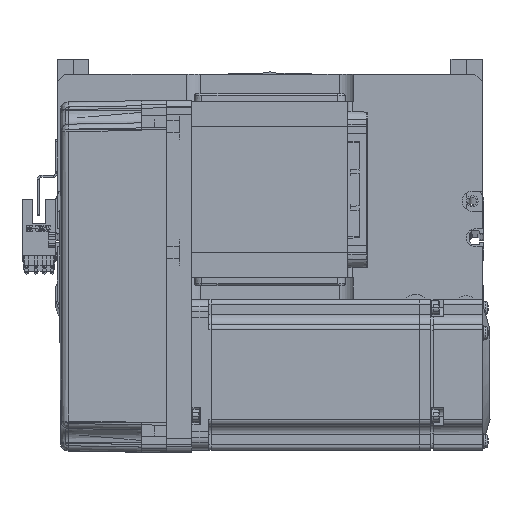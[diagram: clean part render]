
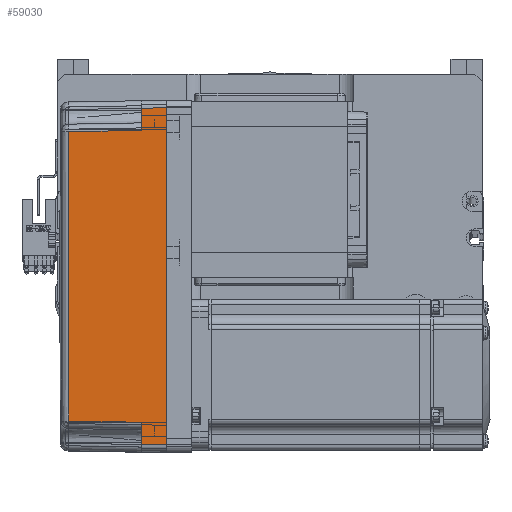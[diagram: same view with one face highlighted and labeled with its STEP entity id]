
A CAD part, top view. The second image highlights one B-rep face of the part: STEP entity #59030.
In plain terms, the highlighted planar face has unit normal (-0.018, 0, 1) as drawn and (0, -1, 0.017) by its records, which use the part's own axes.
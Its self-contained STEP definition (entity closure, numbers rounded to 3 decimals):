
#227 = VECTOR ( 'NONE', #56508, 1000. ) ;
#1279 = EDGE_LOOP ( 'NONE', ( #15662, #2074, #48173, #59424, #32034, #29405, #28759, #54098 ) ) ;
#2074 = ORIENTED_EDGE ( 'NONE', *, *, #31962, .T. ) ;
#2756 = DIRECTION ( 'NONE',  ( -1., 0., 0. ) ) ;
#2935 = EDGE_CURVE ( 'NONE', #60545, #5340, #16481, .T. ) ;
#3031 = VECTOR ( 'NONE', #2756, 1000. ) ;
#3061 = DIRECTION ( 'NONE',  ( 0.017, 0.017, 1. ) ) ;
#3585 = CARTESIAN_POINT ( 'NONE',  ( -57.495, -35.32, 38.985 ) ) ;
#3629 = CARTESIAN_POINT ( 'NONE',  ( 70., -35.825, 10. ) ) ;
#3814 = VERTEX_POINT ( 'NONE', #16048 ) ;
#5340 = VERTEX_POINT ( 'NONE', #31864 ) ;
#7530 = CARTESIAN_POINT ( 'NONE',  ( -66.959, -35.958, 2.39 ) ) ;
#7873 = CARTESIAN_POINT ( 'NONE',  ( -57.495, -35.32, 38.985 ) ) ;
#10322 = EDGE_CURVE ( 'NONE', #22923, #5340, #39278, .T. ) ;
#12197 = DIRECTION ( 'NONE',  ( -0.017, -0.017, -1. ) ) ;
#13967 = VECTOR ( 'NONE', #50641, 1000. ) ;
#15150 = VERTEX_POINT ( 'NONE', #54378 ) ;
#15399 = VERTEX_POINT ( 'NONE', #53314 ) ;
#15662 = ORIENTED_EDGE ( 'NONE', *, *, #23014, .T. ) ;
#15941 = CARTESIAN_POINT ( 'NONE',  ( 70., -35.825, 10. ) ) ;
#16048 = CARTESIAN_POINT ( 'NONE',  ( 66.826, -35.825, 10. ) ) ;
#16244 = DIRECTION ( 'NONE',  ( 0., -1., 0.017 ) ) ;
#16414 = CARTESIAN_POINT ( 'NONE',  ( 58., -35.825, 10. ) ) ;
#16481 = LINE ( 'NONE', #3629, #3031 ) ;
#18599 = EDGE_CURVE ( 'NONE', #15150, #22923, #65297, .T. ) ;
#22923 = VERTEX_POINT ( 'NONE', #61893 ) ;
#23014 = EDGE_CURVE ( 'NONE', #15150, #3814, #64514, .T. ) ;
#24849 = CARTESIAN_POINT ( 'NONE',  ( 70., -36., 0. ) ) ;
#24854 = LINE ( 'NONE', #47087, #52504 ) ;
#26378 = DIRECTION ( 'NONE',  ( 0., -0.017, -1. ) ) ;
#27015 = CARTESIAN_POINT ( 'NONE',  ( -19.165, -35.316, 39.181 ) ) ;
#28363 = EDGE_CURVE ( 'NONE', #15399, #51563, #44447, .T. ) ;
#28759 = ORIENTED_EDGE ( 'NONE', *, *, #10322, .F. ) ;
#29405 = ORIENTED_EDGE ( 'NONE', *, *, #2935, .T. ) ;
#29731 = CARTESIAN_POINT ( 'NONE',  ( 0., -36., 0. ) ) ;
#30809 = EDGE_CURVE ( 'NONE', #48915, #15399, #24854, .T. ) ;
#31429 = AXIS2_PLACEMENT_3D ( 'NONE', #24849, #16244, #26378 ) ;
#31864 = CARTESIAN_POINT ( 'NONE',  ( -66.826, -35.825, 10. ) ) ;
#31962 = EDGE_CURVE ( 'NONE', #3814, #48915, #52337, .T. ) ;
#32034 = ORIENTED_EDGE ( 'NONE', *, *, #52124, .T. ) ;
#33751 = VECTOR ( 'NONE', #48415, 1000. ) ;
#39278 = LINE ( 'NONE', #7530, #54963 ) ;
#44447 = B_SPLINE_CURVE_WITH_KNOTS ( 'NONE', 3,
 ( #53011, #57236, #27015, #3585 ),
 .UNSPECIFIED., .F., .F.,
 ( 4, 4 ),
 ( 0., 1. ),
 .UNSPECIFIED. ) ;
#45571 = PLANE ( 'NONE',  #31429 ) ;
#47087 = CARTESIAN_POINT ( 'NONE',  ( 58., -35.825, 10. ) ) ;
#48173 = ORIENTED_EDGE ( 'NONE', *, *, #30809, .T. ) ;
#48415 = DIRECTION ( 'NONE',  ( -0.017, 0.017, 1. ) ) ;
#48915 = VERTEX_POINT ( 'NONE', #16414 ) ;
#50442 = CARTESIAN_POINT ( 'NONE',  ( -58., -35.825, 10. ) ) ;
#50641 = DIRECTION ( 'NONE',  ( -1., 0., 0. ) ) ;
#51563 = VERTEX_POINT ( 'NONE', #7873 ) ;
#52124 = EDGE_CURVE ( 'NONE', #51563, #60545, #57353, .T. ) ;
#52320 = CARTESIAN_POINT ( 'NONE',  ( -57.495, -35.32, 38.985 ) ) ;
#52337 = LINE ( 'NONE', #15941, #227 ) ;
#52504 = VECTOR ( 'NONE', #57432, 1000. ) ;
#52631 = CARTESIAN_POINT ( 'NONE',  ( 67., -36., 0. ) ) ;
#53011 = CARTESIAN_POINT ( 'NONE',  ( 57.495, -35.32, 38.985 ) ) ;
#53314 = CARTESIAN_POINT ( 'NONE',  ( 57.495, -35.32, 38.985 ) ) ;
#54098 = ORIENTED_EDGE ( 'NONE', *, *, #18599, .F. ) ;
#54378 = CARTESIAN_POINT ( 'NONE',  ( 67., -36., 0. ) ) ;
#54963 = VECTOR ( 'NONE', #3061, 1000. ) ;
#56508 = DIRECTION ( 'NONE',  ( -1., 0., 0. ) ) ;
#57236 = CARTESIAN_POINT ( 'NONE',  ( 19.165, -35.316, 39.181 ) ) ;
#57353 = LINE ( 'NONE', #52320, #64431 ) ;
#57432 = DIRECTION ( 'NONE',  ( -0.017, 0.017, 1. ) ) ;
#59030 = ADVANCED_FACE ( 'NONE', ( #65445 ), #45571, .T. ) ;
#59424 = ORIENTED_EDGE ( 'NONE', *, *, #28363, .T. ) ;
#60545 = VERTEX_POINT ( 'NONE', #50442 ) ;
#61893 = CARTESIAN_POINT ( 'NONE',  ( -67., -36., 0. ) ) ;
#64431 = VECTOR ( 'NONE', #12197, 1000. ) ;
#64514 = LINE ( 'NONE', #52631, #33751 ) ;
#65297 = LINE ( 'NONE', #29731, #13967 ) ;
#65445 = FACE_OUTER_BOUND ( 'NONE', #1279, .T. ) ;
